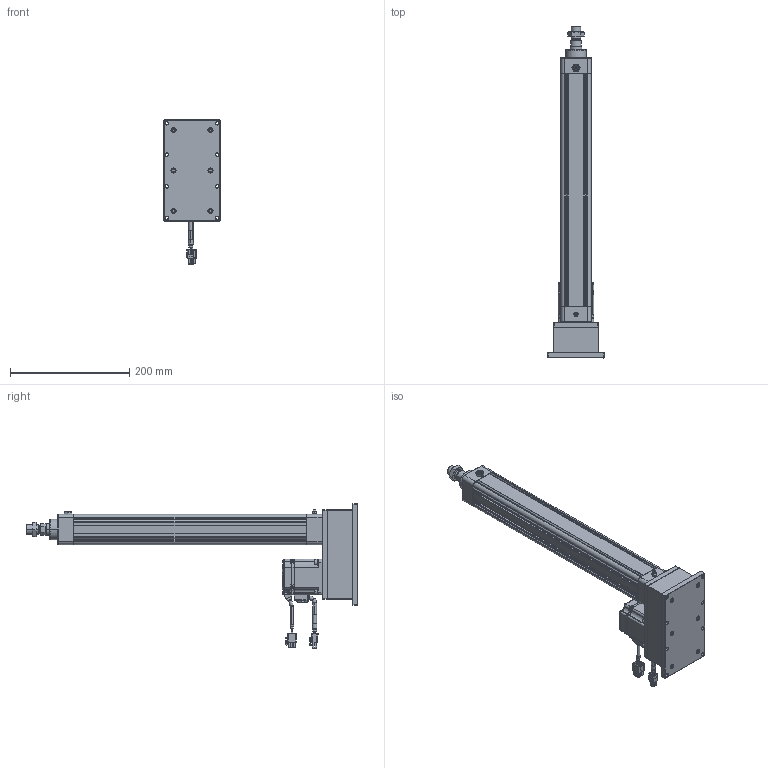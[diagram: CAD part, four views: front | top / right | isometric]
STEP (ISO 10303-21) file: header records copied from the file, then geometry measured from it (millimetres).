
FILE_DESCRIPTION((''),'2;1');
FILE_NAME('ASM0001_ASM','2020-04-18T',('ASUS20200'),(''),'CREO PARAMETRIC BY PTC INC, 2014190','CREO PARAMETRIC BY PTC INC, 2014190','');
FILE_SCHEMA(('CONFIG_CONTROL_DESIGN'));
Products named in the file (29): HE40-D-P-001-X1; HE40-D-P-002-X1; HE40-D-P-003-X1; 6200ZZ; SLM-01; YZ-M6X1; JDB202820; HE40-P-010-X1-200W; _MHMF022L1A2; _CABLE_MOTOR_BOTTOM_03; _CABLE_MOTOR_TOP_03; _MOTOR_CONNECTOR_2; _CABLE_BRAKE_BOTTOM_03; _CABLE_BRAKE_TOP_03; _MHMF_CONNECTOR_9_PIN_A6; MHMF022L1A2M2_1_ASM; MHMF022L1A2M2_ASM; JX5X5X20; TD-5; M5X20; LM-M6X1; HE40-P-012-X2; HE40-P-014-X1; M4X65; HE40-D-P-005-X1; HE40-D-P-004-X1; HE40-D-P-008-X1; LGLM-M6-22; ASM0001_ASM
Assembly tree (45 placements, depth 4):
  ASM0001_ASM
    HE40-D-P-001-X1
    HE40-D-P-002-X1
    HE40-D-P-003-X1
    6200ZZ
    SLM-01
    YZ-M6X1
    JDB202820
    HE40-P-010-X1-200W
    MHMF022L1A2M2_ASM
      MHMF022L1A2M2_1_ASM
        _MHMF022L1A2
        _CABLE_MOTOR_BOTTOM_03
        _CABLE_MOTOR_TOP_03
        _MOTOR_CONNECTOR_2
        _CABLE_BRAKE_BOTTOM_03
        _CABLE_BRAKE_TOP_03
        _MHMF_CONNECTOR_9_PIN_A6
    JX5X5X20
    TD-5  x4
    M5X20  x4
    LM-M6X1  x4
    HE40-P-012-X2
    HE40-P-014-X1
    M4X65  x6
    HE40-D-P-005-X1
    HE40-D-P-004-X1
    HE40-D-P-008-X1
    LGLM-M6-22  x4
Bounding box: 95 x 557.5 x 242.2 mm (x, y, z)
Volume: 1124829.8 mm3; surface area: 415436.1 mm2
Topology: 43 solids, 69 shells, 2771 faces, 6631 edges, 4089 vertices
Faces by surface type: plane 1162, cylinder 773, cone 656, torus 142, sphere 34, bspline 4
Entity records: 72102 total; most frequent: CARTESIAN_POINT 13619, DIRECTION 12812, ORIENTED_EDGE 11514, EDGE_CURVE 5803, AXIS2_PLACEMENT_3D 4766, VERTEX_POINT 3608, VECTOR 3280, LINE 3280
